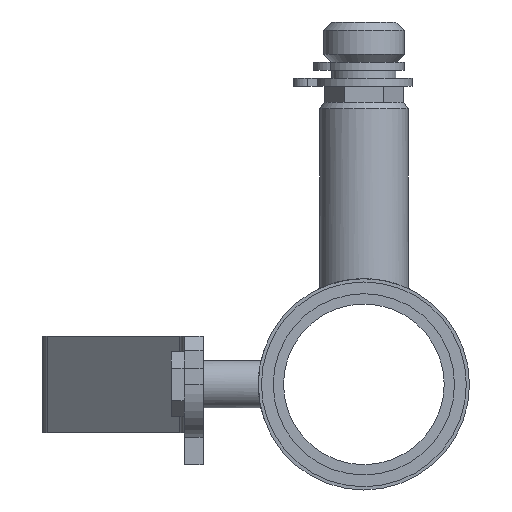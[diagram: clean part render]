
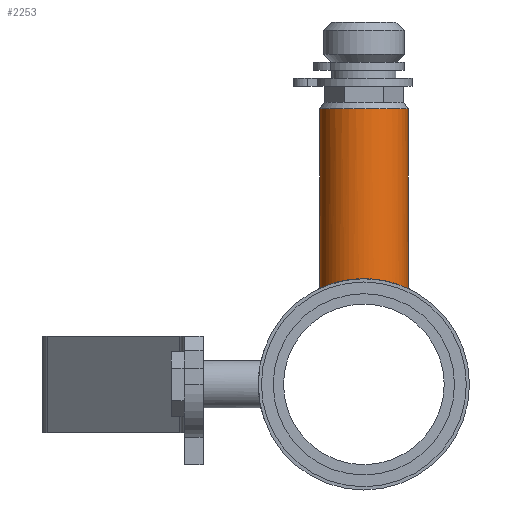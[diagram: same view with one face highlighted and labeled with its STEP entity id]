
A CAD part, left-side view. The second image highlights one B-rep face of the part: STEP entity #2253.
In plain terms, the highlighted cylindrical face has radius 6.985 mm (diameter 13.97 mm), a full revolution.
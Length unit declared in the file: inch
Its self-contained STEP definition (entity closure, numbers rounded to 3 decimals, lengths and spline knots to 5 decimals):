
#55=B_SPLINE_CURVE_WITH_KNOTS('',3,(#3804,#3805,#3806,#3807,#3808,#3809,
#3810,#3811,#3812,#3813,#3814,#3815,#3816,#3817,#3818,#3819,#3820,#3821,
#3822,#3823,#3824,#3825,#3826,#3827,#3828,#3829),.UNSPECIFIED.,.F.,.F.,
(4,2,2,2,2,2,2,2,2,2,2,2,4),(0.,0.26688,0.53376,0.80032,
1.06687,1.33343,1.59998,1.86686,2.13375,
2.40063,2.66751,2.93406,3.20062),
 .UNSPECIFIED.);
#56=B_SPLINE_CURVE_WITH_KNOTS('',3,(#3830,#3831,#3832,#3833,#3834,#3835,
#3836,#3837,#3838,#3839),.UNSPECIFIED.,.F.,.F.,(4,2,2,2,4),(3.20062,
3.46717,3.73373,4.00061,4.26749),
 .UNSPECIFIED.);
#266=FACE_OUTER_BOUND('',#399,.T.);
#399=EDGE_LOOP('',(#1954,#1955,#1956,#1957,#1958));
#604=LINE('',#3802,#798);
#798=VECTOR('',#3096,0.275);
#890=CIRCLE('',#2476,0.275);
#1079=VERTEX_POINT('',#3797);
#1080=VERTEX_POINT('',#3801);
#1081=VERTEX_POINT('',#3803);
#1375=EDGE_CURVE('',#1079,#1079,#890,.T.);
#1377=EDGE_CURVE('',#1079,#1080,#604,.T.);
#1378=EDGE_CURVE('',#1081,#1080,#55,.T.);
#1379=EDGE_CURVE('',#1080,#1081,#56,.T.);
#1954=ORIENTED_EDGE('',*,*,#1375,.F.);
#1955=ORIENTED_EDGE('',*,*,#1377,.T.);
#1956=ORIENTED_EDGE('',*,*,#1378,.F.);
#1957=ORIENTED_EDGE('',*,*,#1379,.F.);
#1958=ORIENTED_EDGE('',*,*,#1377,.F.);
#2025=CYLINDRICAL_SURFACE('',#2477,0.275);
#2253=ADVANCED_FACE('',(#266),#2025,.T.);
#2476=AXIS2_PLACEMENT_3D('',#3798,#3091,#3092);
#2477=AXIS2_PLACEMENT_3D('',#3800,#3094,#3095);
#3091=DIRECTION('center_axis',(0.,0.,1.));
#3092=DIRECTION('ref_axis',(-1.,0.,0.));
#3094=DIRECTION('center_axis',(0.,0.,1.));
#3095=DIRECTION('ref_axis',(-1.,0.,0.));
#3096=DIRECTION('',(0.,0.,-1.));
#3797=CARTESIAN_POINT('',(-0.525,0.,1.715));
#3798=CARTESIAN_POINT('Origin',(-0.8,0.,1.715));
#3800=CARTESIAN_POINT('Origin',(-0.8,0.,0.));
#3801=CARTESIAN_POINT('',(-0.525,0.,0.6575));
#3802=CARTESIAN_POINT('',(-0.525,0.,0.));
#3803=CARTESIAN_POINT('',(-0.8,-0.275,0.59723));
#3804=CARTESIAN_POINT('Ctrl Pts',(-0.8,-0.275,0.59723));
#3805=CARTESIAN_POINT('Ctrl Pts',(-0.83502,-0.275,0.59723));
#3806=CARTESIAN_POINT('Ctrl Pts',(-0.87204,-0.26791,
0.60064));
#3807=CARTESIAN_POINT('Ctrl Pts',(-0.93963,-0.23973,
0.61243));
#3808=CARTESIAN_POINT('Ctrl Pts',(-0.97026,-0.21865,
0.6206));
#3809=CARTESIAN_POINT('Ctrl Pts',(-1.01862,-0.17029,
0.63557));
#3810=CARTESIAN_POINT('Ctrl Pts',(-1.03972,-0.13965,
0.64341));
#3811=CARTESIAN_POINT('Ctrl Pts',(-1.06792,-0.07201,
0.65444));
#3812=CARTESIAN_POINT('Ctrl Pts',(-1.075,-0.03498,0.6575));
#3813=CARTESIAN_POINT('Ctrl Pts',(-1.075,0.03498,0.6575));
#3814=CARTESIAN_POINT('Ctrl Pts',(-1.06792,0.07201,
0.65444));
#3815=CARTESIAN_POINT('Ctrl Pts',(-1.03972,0.13965,0.64341));
#3816=CARTESIAN_POINT('Ctrl Pts',(-1.01862,0.17029,0.63557));
#3817=CARTESIAN_POINT('Ctrl Pts',(-0.97026,0.21865,
0.6206));
#3818=CARTESIAN_POINT('Ctrl Pts',(-0.93963,0.23973,
0.61243));
#3819=CARTESIAN_POINT('Ctrl Pts',(-0.87204,0.26791,
0.60064));
#3820=CARTESIAN_POINT('Ctrl Pts',(-0.83502,0.275,0.59723));
#3821=CARTESIAN_POINT('Ctrl Pts',(-0.76498,0.275,0.59723));
#3822=CARTESIAN_POINT('Ctrl Pts',(-0.72796,0.26791,
0.60064));
#3823=CARTESIAN_POINT('Ctrl Pts',(-0.66037,0.23973,
0.61243));
#3824=CARTESIAN_POINT('Ctrl Pts',(-0.62974,0.21865,
0.6206));
#3825=CARTESIAN_POINT('Ctrl Pts',(-0.58138,0.17029,
0.63557));
#3826=CARTESIAN_POINT('Ctrl Pts',(-0.56028,0.13965,
0.64341));
#3827=CARTESIAN_POINT('Ctrl Pts',(-0.53208,0.07201,
0.65444));
#3828=CARTESIAN_POINT('Ctrl Pts',(-0.525,0.03498,0.6575));
#3829=CARTESIAN_POINT('Ctrl Pts',(-0.525,0.,0.6575));
#3830=CARTESIAN_POINT('Ctrl Pts',(-0.525,0.,0.6575));
#3831=CARTESIAN_POINT('Ctrl Pts',(-0.525,-0.03498,0.6575));
#3832=CARTESIAN_POINT('Ctrl Pts',(-0.53208,-0.07201,
0.65444));
#3833=CARTESIAN_POINT('Ctrl Pts',(-0.56028,-0.13965,
0.64341));
#3834=CARTESIAN_POINT('Ctrl Pts',(-0.58138,-0.17029,
0.63557));
#3835=CARTESIAN_POINT('Ctrl Pts',(-0.62974,-0.21865,
0.6206));
#3836=CARTESIAN_POINT('Ctrl Pts',(-0.66037,-0.23973,
0.61243));
#3837=CARTESIAN_POINT('Ctrl Pts',(-0.72796,-0.26791,
0.60064));
#3838=CARTESIAN_POINT('Ctrl Pts',(-0.76498,-0.275,0.59723));
#3839=CARTESIAN_POINT('Ctrl Pts',(-0.8,-0.275,0.59723));
